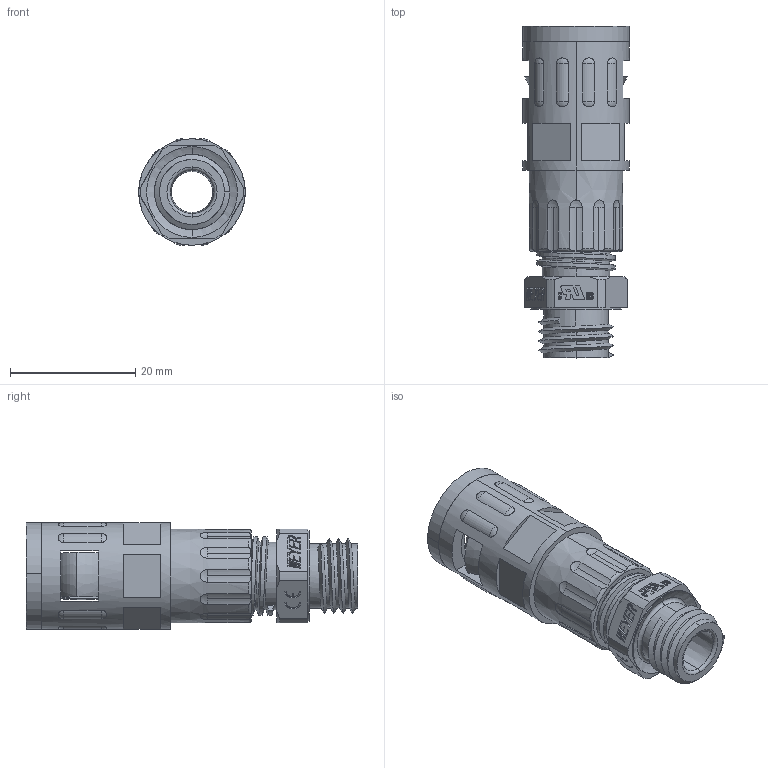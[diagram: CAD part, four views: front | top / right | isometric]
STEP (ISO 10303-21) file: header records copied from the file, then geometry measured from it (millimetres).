
FILE_DESCRIPTION (( 'STEP AP203' ), '1' );
FILE_NAME ('WQGZ-M12-AD10.0.STEP', '2017-09-26T07:40:24', ( '' ), ( '' ), 'SwSTEP 2.0', 'SolidWorks 2016', '' );
FILE_SCHEMA (( 'CONFIG_CONTROL_DESIGN' ));
Length unit declared in the file: millimetre
Products named in the file (7): GFD-AD10.0; WQG2-Tr12-AD10.0; HSK-M12-01; WQGZ-M12-AD10.0; CTH-P07; NSK-AD10.0
Assembly tree (6 placements, depth 3):
  WQGZ-M12-AD10.0
    WQG2-Tr12-AD10.0
      WQG2-Tr12-AD10.0
      GFD-AD10.0
      NSK-AD10.0
    HSK-M12-01
    CTH-P07
Bounding box: 17 x 53 x 17 mm (x, y, z)
Volume: 5225.5 mm3; surface area: 8276.6 mm2
Topology: 4 solids, 7 shells, 606 faces, 1613 edges, 1040 vertices
Faces by surface type: plane 297, cylinder 97, cone 79, bspline 68, torus 45, sphere 20
Entity records: 24894 total; most frequent: CARTESIAN_POINT 9920, ORIENTED_EDGE 3166, DIRECTION 2659, EDGE_CURVE 1585, VERTEX_POINT 1032, AXIS2_PLACEMENT_3D 927, VECTOR 805, LINE 805
